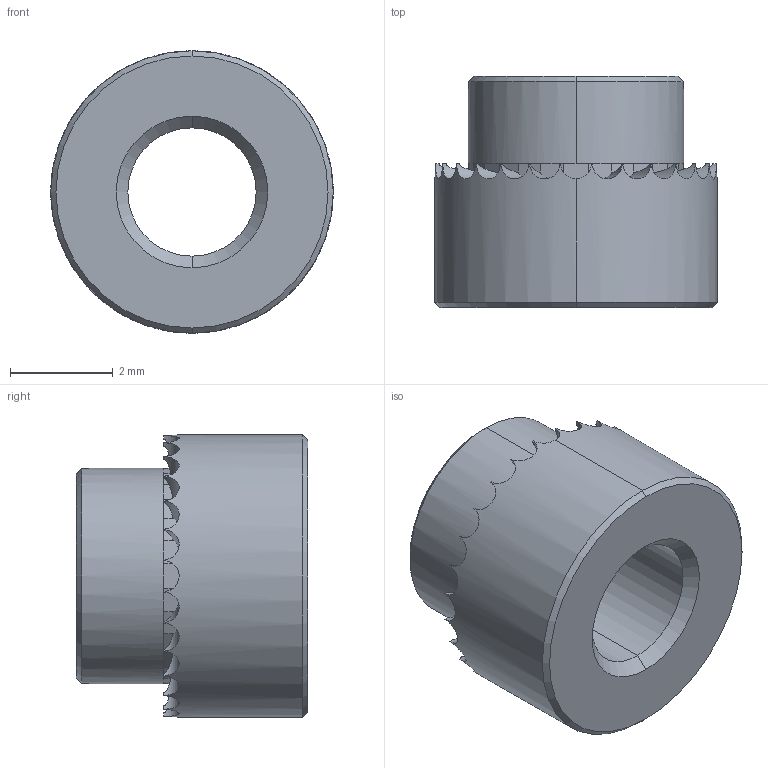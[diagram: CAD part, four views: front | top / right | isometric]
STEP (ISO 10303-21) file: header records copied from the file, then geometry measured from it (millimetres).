
FILE_DESCRIPTION (( 'STEP AP203' ), '1' );
FILE_NAME ('P0829.025-18G-ZP.step', '2019-03-21T22:11:11', ( '' ), ( '' ), 'SwSTEP 2.0', 'SolidWorks 2017', '' );
FILE_SCHEMA (( 'CONFIG_CONTROL_DESIGN' ));
Length unit declared in the file: millimetre
Products named in the file (1): P0829.025-18G-ZP
Bounding box: 5.5 x 4.5 x 5.5 mm (x, y, z)
Volume: 64.8 mm3; surface area: 142.6 mm2
Topology: 1 solids, 1 shells, 128 faces, 312 edges, 186 vertices
Faces by surface type: plane 86, cylinder 34, cone 8
Entity records: 3963 total; most frequent: CARTESIAN_POINT 965, ORIENTED_EDGE 624, DIRECTION 612, EDGE_CURVE 312, AXIS2_PLACEMENT_3D 229, VERTEX_POINT 186, LINE 154, VECTOR 154
